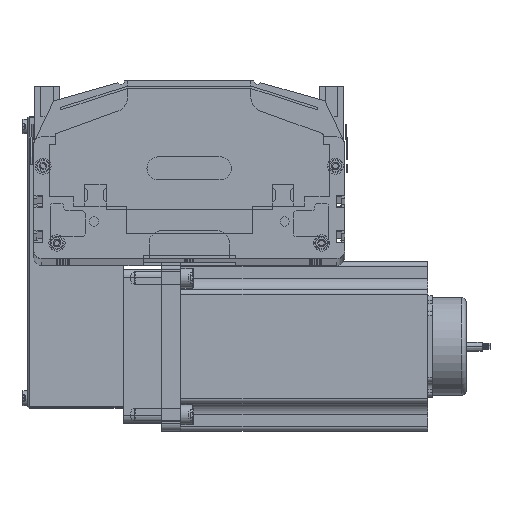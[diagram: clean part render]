
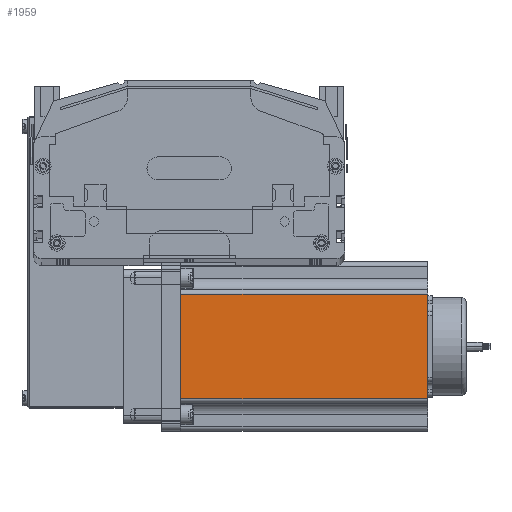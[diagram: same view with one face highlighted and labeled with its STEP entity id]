
A CAD part, top view. The second image highlights one B-rep face of the part: STEP entity #1959.
In plain terms, the highlighted planar face has unit normal (0, 0, 1) as drawn and (0, -1, 0) by its records, which use the part's own axes.
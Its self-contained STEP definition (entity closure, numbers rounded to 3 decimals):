
#1843 = VERTEX_POINT ( 'NONE', #85233 ) ;
#1844 = VERTEX_POINT ( 'NONE', #85115 ) ;
#1847 = EDGE_LOOP ( 'NONE', ( #1967, #2021, #2025, #1991 ) ) ;
#1848 = EDGE_CURVE ( 'NONE', #1843, #1844, #85208, .T. ) ;
#1881 = VERTEX_POINT ( 'NONE', #85390 ) ;
#1928 = VERTEX_POINT ( 'NONE', #85576 ) ;
#1947 = EDGE_CURVE ( 'NONE', #1844, #1881, #3231, .T. ) ;
#1959 = ADVANCED_FACE ( 'NONE', ( #3280 ), #3279, .F. ) ;
#1967 = ORIENTED_EDGE ( 'NONE', *, *, #1848, .T. ) ;
#1991 = ORIENTED_EDGE ( 'NONE', *, *, #2026, .T. ) ;
#2021 = ORIENTED_EDGE ( 'NONE', *, *, #1947, .T. ) ;
#2022 = EDGE_CURVE ( 'NONE', #1928, #1881, #3356, .T. ) ;
#2025 = ORIENTED_EDGE ( 'NONE', *, *, #2022, .F. ) ;
#2026 = EDGE_CURVE ( 'NONE', #1928, #1843, #3413, .T. ) ;
#3225 = DIRECTION ( 'NONE',  ( 0., 0., 1. ) ) ;
#3226 = VECTOR ( 'NONE', #3225, 1000. ) ;
#3230 = CARTESIAN_POINT ( 'NONE',  ( 88.952, 0., 160.5 ) ) ;
#3231 = LINE ( 'NONE', #3230, #3226 ) ;
#3269 = DIRECTION ( 'NONE',  ( 0., 0., 1. ) ) ;
#3270 = DIRECTION ( 'NONE',  ( 0., 1., 0. ) ) ;
#3274 = CARTESIAN_POINT ( 'NONE',  ( 0., 0., 160.5 ) ) ;
#3279 = PLANE ( 'NONE',  #3286 ) ;
#3280 = FACE_OUTER_BOUND ( 'NONE', #1847, .T. ) ;
#3286 = AXIS2_PLACEMENT_3D ( 'NONE', #3274, #3270, #3269 ) ;
#3355 = CARTESIAN_POINT ( 'NONE',  ( 0., 0., 160.5 ) ) ;
#3356 = LINE ( 'NONE', #3355, #3422 ) ;
#3410 = DIRECTION ( 'NONE',  ( 0., 0., -1. ) ) ;
#3411 = VECTOR ( 'NONE', #3410, 1000. ) ;
#3412 = CARTESIAN_POINT ( 'NONE',  ( 21.048, 0., 160.5 ) ) ;
#3413 = LINE ( 'NONE', #3412, #3411 ) ;
#3421 = DIRECTION ( 'NONE',  ( 1., 0., 0. ) ) ;
#3422 = VECTOR ( 'NONE', #3421, 1000. ) ;
#85115 = CARTESIAN_POINT ( 'NONE',  ( 88.952, 0., 0. ) ) ;
#85204 = DIRECTION ( 'NONE',  ( 1., 0., 0. ) ) ;
#85205 = VECTOR ( 'NONE', #85204, 1000. ) ;
#85206 = CARTESIAN_POINT ( 'NONE',  ( 0., 0., 0. ) ) ;
#85208 = LINE ( 'NONE', #85206, #85205 ) ;
#85233 = CARTESIAN_POINT ( 'NONE',  ( 21.048, 0., 0. ) ) ;
#85390 = CARTESIAN_POINT ( 'NONE',  ( 88.952, 0., 160.5 ) ) ;
#85576 = CARTESIAN_POINT ( 'NONE',  ( 21.048, 0., 160.5 ) ) ;
